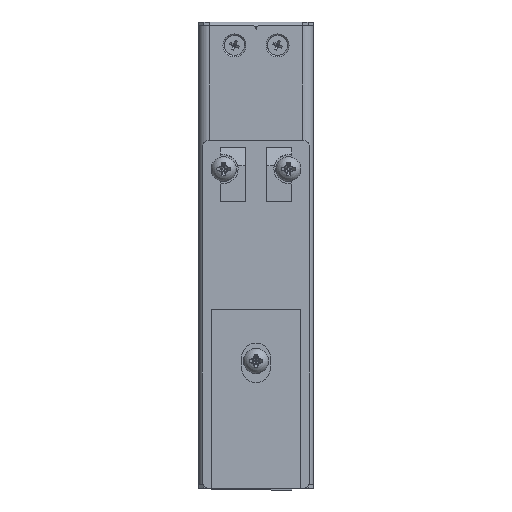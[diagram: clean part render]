
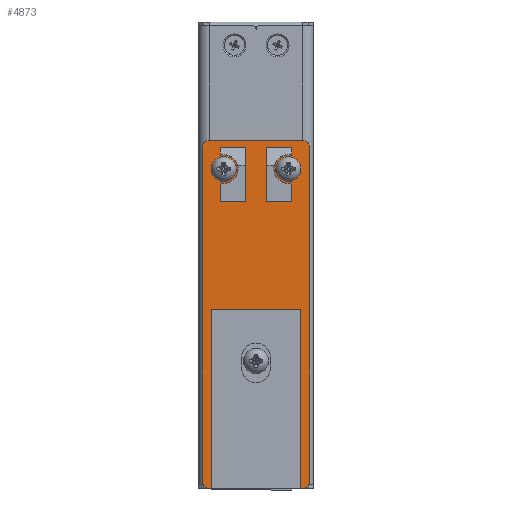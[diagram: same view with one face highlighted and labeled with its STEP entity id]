
A CAD part, front view. The second image highlights one B-rep face of the part: STEP entity #4873.
In plain terms, the highlighted planar face has unit normal (0, -1, 0) as drawn and (0, 0, -1) by its records, which use the part's own axes.
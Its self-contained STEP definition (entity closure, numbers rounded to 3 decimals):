
#4873=ADVANCED_FACE('',(#20662,#20664,#20666,#20668,#20670),#20672,.T.);
#20662=FACE_BOUND('',#20663,.T.);
#20663=EDGE_LOOP('',(#35656,#35657,#35658,#35659,#35660,#35661,#35662,#35663,#35664,
#35665,#35666,#35667));
#20664=FACE_BOUND('',#20665,.T.);
#20665=EDGE_LOOP('',(#35668));
#20666=FACE_BOUND('',#20667,.T.);
#20667=EDGE_LOOP('',(#35669,#35670,#35671,#35672,#35673,#35674));
#20668=FACE_BOUND('',#20669,.T.);
#20669=EDGE_LOOP('',(#35675,#35676,#35677,#35678,#35679,#35680));
#20670=FACE_BOUND('',#20671,.T.);
#20671=EDGE_LOOP('',(#35681));
#20672=PLANE('',#20673);
#20673=AXIS2_PLACEMENT_3D('',#20674,#20675,#20676);
#20674=CARTESIAN_POINT('',(31.,-4.,-4.));
#20675=DIRECTION('',(0.,0.,-1.));
#20676=DIRECTION('',(-1.,0.,0.));
#35656=ORIENTED_EDGE('',*,*,#43076,.F.);
#35657=ORIENTED_EDGE('',*,*,#43075,.T.);
#35658=ORIENTED_EDGE('',*,*,#43073,.F.);
#35659=ORIENTED_EDGE('',*,*,#43071,.T.);
#35660=ORIENTED_EDGE('',*,*,#43077,.F.);
#35661=ORIENTED_EDGE('',*,*,#43078,.F.);
#35662=ORIENTED_EDGE('',*,*,#43079,.F.);
#35663=ORIENTED_EDGE('',*,*,#43067,.T.);
#35664=ORIENTED_EDGE('',*,*,#43065,.F.);
#35665=ORIENTED_EDGE('',*,*,#43062,.T.);
#35666=ORIENTED_EDGE('',*,*,#43061,.F.);
#35667=ORIENTED_EDGE('',*,*,#42151,.T.);
#35668=ORIENTED_EDGE('',*,*,#43080,.F.);
#35669=ORIENTED_EDGE('',*,*,#43081,.F.);
#35670=ORIENTED_EDGE('',*,*,#43082,.F.);
#35671=ORIENTED_EDGE('',*,*,#43083,.F.);
#35672=ORIENTED_EDGE('',*,*,#43084,.F.);
#35673=ORIENTED_EDGE('',*,*,#43085,.F.);
#35674=ORIENTED_EDGE('',*,*,#43086,.F.);
#35675=ORIENTED_EDGE('',*,*,#43087,.F.);
#35676=ORIENTED_EDGE('',*,*,#43088,.F.);
#35677=ORIENTED_EDGE('',*,*,#43089,.F.);
#35678=ORIENTED_EDGE('',*,*,#43090,.F.);
#35679=ORIENTED_EDGE('',*,*,#43091,.F.);
#35680=ORIENTED_EDGE('',*,*,#43092,.F.);
#35681=ORIENTED_EDGE('',*,*,#43093,.F.);
#42151=EDGE_CURVE('',#47088,#47086,#47089,.T.);
#43061=EDGE_CURVE('',#47088,#48586,#48588,.F.);
#43062=EDGE_CURVE('',#48589,#48586,#48590,.T.);
#43065=EDGE_CURVE('',#48589,#48592,#48594,.F.);
#43067=EDGE_CURVE('',#48597,#48592,#48598,.T.);
#43071=EDGE_CURVE('',#48595,#48603,#48605,.T.);
#43073=EDGE_CURVE('',#48595,#48606,#48608,.F.);
#43075=EDGE_CURVE('',#48609,#48606,#48611,.T.);
#43076=EDGE_CURVE('',#48609,#47086,#48612,.F.);
#43077=EDGE_CURVE('',#48613,#48603,#48614,.T.);
#43078=EDGE_CURVE('',#48615,#48613,#48616,.T.);
#43079=EDGE_CURVE('',#48597,#48615,#48617,.T.);
#43080=EDGE_CURVE('',#48618,#48618,#48619,.F.);
#43081=EDGE_CURVE('',#48620,#48621,#48622,.T.);
#43082=EDGE_CURVE('',#48623,#48620,#48624,.T.);
#43083=EDGE_CURVE('',#48625,#48623,#48626,.T.);
#43084=EDGE_CURVE('',#48627,#48625,#48628,.T.);
#43085=EDGE_CURVE('',#48629,#48627,#48630,.T.);
#43086=EDGE_CURVE('',#48621,#48629,#48631,.T.);
#43087=EDGE_CURVE('',#48632,#48633,#48634,.T.);
#43088=EDGE_CURVE('',#48635,#48632,#48636,.T.);
#43089=EDGE_CURVE('',#48637,#48635,#48638,.T.);
#43090=EDGE_CURVE('',#48639,#48637,#48640,.T.);
#43091=EDGE_CURVE('',#48641,#48639,#48642,.T.);
#43092=EDGE_CURVE('',#48633,#48641,#48643,.T.);
#43093=EDGE_CURVE('',#48644,#48644,#48645,.F.);
#47086=VERTEX_POINT('',#56002);
#47088=VERTEX_POINT('',#56006);
#47089=LINE('',#56007,#56008);
#48586=VERTEX_POINT('',#59607);
#48588=CIRCLE('',#59611,2.);
#48589=VERTEX_POINT('',#59615);
#48590=LINE('',#59616,#59617);
#48592=VERTEX_POINT('',#59622);
#48594=CIRCLE('',#59626,2.);
#48595=VERTEX_POINT('',#59630);
#48597=VERTEX_POINT('',#59634);
#48598=LINE('',#59635,#59636);
#48603=VERTEX_POINT('',#59646);
#48605=LINE('',#59650,#59651);
#48606=VERTEX_POINT('',#59653);
#48608=CIRCLE('',#59657,2.);
#48609=VERTEX_POINT('',#59661);
#48611=LINE('',#59665,#59666);
#48612=CIRCLE('',#59668,2.);
#48613=VERTEX_POINT('',#59672);
#48614=LINE('',#59673,#59674);
#48615=VERTEX_POINT('',#59676);
#48616=LINE('',#59677,#59678);
#48617=LINE('',#59680,#59681);
#48618=VERTEX_POINT('',#59683);
#48619=CIRCLE('',#59684,3.5);
#48620=VERTEX_POINT('',#59688);
#48621=VERTEX_POINT('',#59689);
#48622=LINE('',#59690,#59691);
#48623=VERTEX_POINT('',#59693);
#48624=LINE('',#59694,#59695);
#48625=VERTEX_POINT('',#59697);
#48626=LINE('',#59698,#59699);
#48627=VERTEX_POINT('',#59701);
#48628=CIRCLE('',#59702,4.);
#48629=VERTEX_POINT('',#59706);
#48630=LINE('',#59707,#59708);
#48631=LINE('',#59710,#59711);
#48632=VERTEX_POINT('',#59713);
#48633=VERTEX_POINT('',#59714);
#48634=LINE('',#59715,#59716);
#48635=VERTEX_POINT('',#59718);
#48636=LINE('',#59719,#59720);
#48637=VERTEX_POINT('',#59722);
#48638=LINE('',#59723,#59724);
#48639=VERTEX_POINT('',#59726);
#48640=LINE('',#59727,#59728);
#48641=VERTEX_POINT('',#59730);
#48642=LINE('',#59731,#59732);
#48643=CIRCLE('',#59734,4.);
#48644=VERTEX_POINT('',#59738);
#48645=CIRCLE('',#59739,3.5);
#56002=CARTESIAN_POINT('',(96.,0.,-4.));
#56006=CARTESIAN_POINT('',(96.,26.,-4.));
#56007=CARTESIAN_POINT('',(96.,26.,-4.));
#56008=VECTOR('',#56009,1.);
#56009=DIRECTION('',(0.,-1.,0.));
#59607=CARTESIAN_POINT('',(94.,28.,-4.));
#59611=AXIS2_PLACEMENT_3D('',#59612,#59613,#59614);
#59612=CARTESIAN_POINT('',(94.,26.,-4.));
#59613=DIRECTION('',(0.,0.,-1.));
#59614=DIRECTION('',(0.,1.,0.));
#59615=CARTESIAN_POINT('',(1.,28.,-4.));
#59616=CARTESIAN_POINT('',(1.,28.,-4.));
#59617=VECTOR('',#59618,1.);
#59618=DIRECTION('',(1.,0.,0.));
#59622=CARTESIAN_POINT('',(-1.,26.,-4.));
#59626=AXIS2_PLACEMENT_3D('',#59627,#59628,#59629);
#59627=CARTESIAN_POINT('',(1.,26.,-4.));
#59628=DIRECTION('',(0.,0.,-1.));
#59629=DIRECTION('',(-1.,0.,0.));
#59630=CARTESIAN_POINT('',(-1.,0.,-4.));
#59634=CARTESIAN_POINT('',(-1.,25.5,-4.));
#59635=CARTESIAN_POINT('',(-1.,25.5,-4.));
#59636=VECTOR('',#59637,1.);
#59637=DIRECTION('',(0.,1.,0.));
#59646=CARTESIAN_POINT('',(-1.,0.5,-4.));
#59650=CARTESIAN_POINT('',(-1.,0.,-4.));
#59651=VECTOR('',#59652,1.);
#59652=DIRECTION('',(0.,1.,0.));
#59653=CARTESIAN_POINT('',(1.,-2.,-4.));
#59657=AXIS2_PLACEMENT_3D('',#59658,#59659,#59660);
#59658=CARTESIAN_POINT('',(1.,0.,-4.));
#59659=DIRECTION('',(0.,0.,-1.));
#59660=DIRECTION('',(0.,-1.,0.));
#59661=CARTESIAN_POINT('',(94.,-2.,-4.));
#59665=CARTESIAN_POINT('',(94.,-2.,-4.));
#59666=VECTOR('',#59667,1.);
#59667=DIRECTION('',(-1.,0.,0.));
#59668=AXIS2_PLACEMENT_3D('',#59669,#59670,#59671);
#59669=CARTESIAN_POINT('',(94.,0.,-4.));
#59670=DIRECTION('',(0.,0.,-1.));
#59671=DIRECTION('',(1.,0.,0.));
#59672=CARTESIAN_POINT('',(49.,0.5,-4.));
#59673=CARTESIAN_POINT('',(49.,0.5,-4.));
#59674=VECTOR('',#59675,1.);
#59675=DIRECTION('',(-1.,0.,0.));
#59676=CARTESIAN_POINT('',(49.,25.5,-4.));
#59677=CARTESIAN_POINT('',(49.,25.5,-4.));
#59678=VECTOR('',#59679,1.);
#59679=DIRECTION('',(0.,-1.,0.));
#59680=CARTESIAN_POINT('',(-1.,25.5,-4.));
#59681=VECTOR('',#59682,1.);
#59682=DIRECTION('',(1.,0.,0.));
#59683=CARTESIAN_POINT('',(88.,25.5,-4.));
#59684=AXIS2_PLACEMENT_3D('',#59685,#59686,#59687);
#59685=CARTESIAN_POINT('',(88.,22.,-4.));
#59686=DIRECTION('',(0.,0.,1.));
#59687=DIRECTION('',(0.,1.,0.));
#59688=CARTESIAN_POINT('',(94.,16.,-4.));
#59689=CARTESIAN_POINT('',(79.,16.,-4.));
#59690=CARTESIAN_POINT('',(94.,16.,-4.));
#59691=VECTOR('',#59692,1.);
#59692=DIRECTION('',(-1.,0.,0.));
#59693=CARTESIAN_POINT('',(94.,23.,-4.));
#59694=CARTESIAN_POINT('',(94.,23.,-4.));
#59695=VECTOR('',#59696,1.);
#59696=DIRECTION('',(0.,-1.,0.));
#59697=CARTESIAN_POINT('',(91.873,23.,-4.));
#59698=CARTESIAN_POINT('',(91.873,23.,-4.));
#59699=VECTOR('',#59700,1.);
#59700=DIRECTION('',(1.,0.,0.));
#59701=CARTESIAN_POINT('',(84.127,23.,-4.));
#59702=AXIS2_PLACEMENT_3D('',#59703,#59704,#59705);
#59703=CARTESIAN_POINT('',(88.,22.,-4.));
#59704=DIRECTION('',(0.,0.,1.));
#59705=DIRECTION('',(-0.968,0.25,0.));
#59706=CARTESIAN_POINT('',(79.,23.,-4.));
#59707=CARTESIAN_POINT('',(79.,23.,-4.));
#59708=VECTOR('',#59709,1.);
#59709=DIRECTION('',(1.,0.,0.));
#59710=CARTESIAN_POINT('',(79.,16.,-4.));
#59711=VECTOR('',#59712,1.);
#59712=DIRECTION('',(0.,1.,0.));
#59713=CARTESIAN_POINT('',(94.,3.,-4.));
#59714=CARTESIAN_POINT('',(91.873,3.,-4.));
#59715=CARTESIAN_POINT('',(94.,3.,-4.));
#59716=VECTOR('',#59717,1.);
#59717=DIRECTION('',(-1.,0.,0.));
#59718=CARTESIAN_POINT('',(94.,10.,-4.));
#59719=CARTESIAN_POINT('',(94.,10.,-4.));
#59720=VECTOR('',#59721,1.);
#59721=DIRECTION('',(0.,-1.,0.));
#59722=CARTESIAN_POINT('',(79.,10.,-4.));
#59723=CARTESIAN_POINT('',(79.,10.,-4.));
#59724=VECTOR('',#59725,1.);
#59725=DIRECTION('',(1.,0.,0.));
#59726=CARTESIAN_POINT('',(79.,3.,-4.));
#59727=CARTESIAN_POINT('',(79.,3.,-4.));
#59728=VECTOR('',#59729,1.);
#59729=DIRECTION('',(0.,1.,0.));
#59730=CARTESIAN_POINT('',(84.127,3.,-4.));
#59731=CARTESIAN_POINT('',(84.127,3.,-4.));
#59732=VECTOR('',#59733,1.);
#59733=DIRECTION('',(-1.,0.,0.));
#59734=AXIS2_PLACEMENT_3D('',#59735,#59736,#59737);
#59735=CARTESIAN_POINT('',(88.,4.,-4.));
#59736=DIRECTION('',(0.,0.,1.));
#59737=DIRECTION('',(0.968,-0.25,0.));
#59738=CARTESIAN_POINT('',(88.,7.5,-4.));
#59739=AXIS2_PLACEMENT_3D('',#59740,#59741,#59742);
#59740=CARTESIAN_POINT('',(88.,4.,-4.));
#59741=DIRECTION('',(0.,0.,1.));
#59742=DIRECTION('',(0.,1.,0.));
